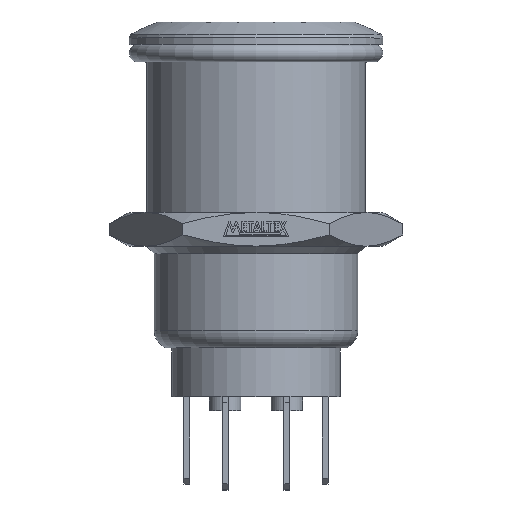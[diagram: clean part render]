
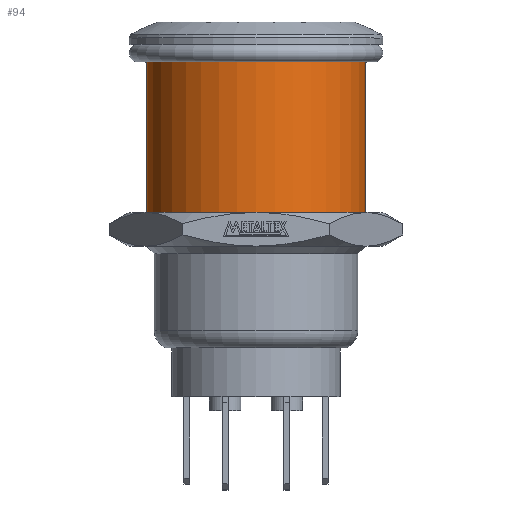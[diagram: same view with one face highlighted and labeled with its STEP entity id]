
A CAD part, top view. The second image highlights one B-rep face of the part: STEP entity #94.
In plain terms, the highlighted cylindrical face has radius 9.4 mm (diameter 18.8 mm), a partial arc.
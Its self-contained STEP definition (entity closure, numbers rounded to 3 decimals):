
#94 = ADVANCED_FACE ( 'NONE', ( #4753 ), #4745, .T. ) ;
#271 = EDGE_CURVE ( 'NONE', #2406, #2426, #3141, .T. ) ;
#272 = EDGE_CURVE ( 'NONE', #2394, #2406, #7136, .T. ) ;
#273 = EDGE_CURVE ( 'NONE', #2381, #2426, #7135, .T. ) ;
#275 = EDGE_CURVE ( 'NONE', #2394, #2381, #3150, .T. ) ;
#2303 = ORIENTED_EDGE ( 'NONE', *, *, #275, .F. ) ;
#2304 = ORIENTED_EDGE ( 'NONE', *, *, #271, .T. ) ;
#2305 = ORIENTED_EDGE ( 'NONE', *, *, #273, .F. ) ;
#2306 = ORIENTED_EDGE ( 'NONE', *, *, #272, .T. ) ;
#2381 = VERTEX_POINT ( 'NONE', #6306 ) ;
#2394 = VERTEX_POINT ( 'NONE', #6319 ) ;
#2406 = VERTEX_POINT ( 'NONE', #6331 ) ;
#2426 = VERTEX_POINT ( 'NONE', #6351 ) ;
#2648 = CARTESIAN_POINT ( 'NONE',  ( 0., 0., 0. ) ) ;
#2649 = DIRECTION ( 'NONE',  ( 0., 1., 0. ) ) ;
#2650 = DIRECTION ( 'NONE',  ( -1., 0., 0. ) ) ;
#3140 = CARTESIAN_POINT ( 'NONE',  ( 0., 11.632, 0. ) ) ;
#3141 = LINE ( 'NONE', #3142, #4454 ) ;
#3142 = CARTESIAN_POINT ( 'NONE',  ( 9.4, 0., 0. ) ) ;
#3143 = DIRECTION ( 'NONE',  ( 0., 1., 0. ) ) ;
#3144 = DIRECTION ( 'NONE',  ( 0., 1., 0. ) ) ;
#3145 = DIRECTION ( 'NONE',  ( -1., 0., 0. ) ) ;
#3146 = CARTESIAN_POINT ( 'NONE',  ( 0., 25.332, 0. ) ) ;
#3147 = DIRECTION ( 'NONE',  ( 0., 1., 0. ) ) ;
#3148 = DIRECTION ( 'NONE',  ( -1., 0., 0. ) ) ;
#3150 = LINE ( 'NONE', #3151, #4452 ) ;
#3151 = CARTESIAN_POINT ( 'NONE',  ( -9.4, 0., 0. ) ) ;
#3152 = DIRECTION ( 'NONE',  ( 0., 1., 0. ) ) ;
#4452 = VECTOR ( 'NONE', #3152, 1000. ) ;
#4454 = VECTOR ( 'NONE', #3143, 1000. ) ;
#4455 = AXIS2_PLACEMENT_3D ( 'NONE', #3140, #3144, #3145 ) ;
#4479 = AXIS2_PLACEMENT_3D ( 'NONE', #3146, #3147, #3148 ) ;
#4745 = CYLINDRICAL_SURFACE ( 'NONE', #4746, 9.4 ) ;
#4746 = AXIS2_PLACEMENT_3D ( 'NONE', #2648, #2649, #2650 ) ;
#4753 = FACE_OUTER_BOUND ( 'NONE', #7325, .T. ) ;
#6306 = CARTESIAN_POINT ( 'NONE',  ( -9.4, 25.332, 0. ) ) ;
#6319 = CARTESIAN_POINT ( 'NONE',  ( -9.4, 11.632, 0. ) ) ;
#6331 = CARTESIAN_POINT ( 'NONE',  ( 9.4, 11.632, 0. ) ) ;
#6351 = CARTESIAN_POINT ( 'NONE',  ( 9.4, 25.332, 0. ) ) ;
#7135 = CIRCLE ( 'NONE', #4479, 9.4 ) ;
#7136 = CIRCLE ( 'NONE', #4455, 9.4 ) ;
#7325 = EDGE_LOOP ( 'NONE', ( #2306, #2304, #2305, #2303 ) ) ;
